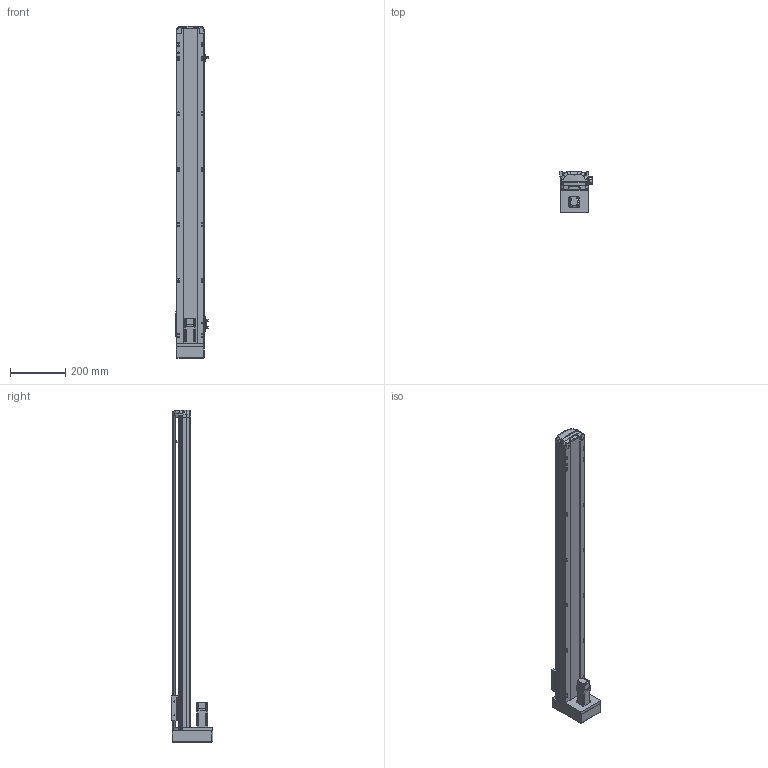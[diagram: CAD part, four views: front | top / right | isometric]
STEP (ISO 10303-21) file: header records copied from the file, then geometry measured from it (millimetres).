
FILE_DESCRIPTION (( 'STEP AP214' ), '1' );
FILE_NAME ('RTH10-XX-950-M-M10-C4.STEP', '2025-10-25T05:48:22', ( 'Microsoft' ), ( 'Microsoft' ), 'SwSTEP 2.0', 'SolidWorks 2018', '' );
FILE_SCHEMA (( 'AUTOMOTIVE_DESIGN' ));
Length unit declared in the file: millimetre
Products named in the file (10): N_RTH12-M-007P-奻裔^RTH10-XX-100-M-M10-C4; N_RTH12-M-018-裔赽^RTH10-XX-100-M-M10-C4; RTH10-XX-950-M-M10-C4; N_RTH12-M-011P-臏倰第菁釱^RTH10-XX-100-M-M10-C4; N_RTH12-GY-001P^RTH10-XX-100-M-M10-C4; N_RTH12-M-008-萇儂啣^RTH10-XX-100-M-M10-C4; N_P10^RTH10-XX-100-M-M10-C4; N_RTH13-L-012覜茼え俋离^RTH10-XX-100-M-M10-C4; N_RTH12-GY-004-賑釱^RTH10-XX-100-M-M10-C4; N_OMRON EE-SX672 传感器^RTH10-XX-100-M-M10-C4
Assembly tree (11 placements, depth 2):
  RTH10-XX-950-M-M10-C4
    N_RTH12-M-011P-臏倰第菁釱^RTH10-XX-100-M-M10-C4
    N_RTH13-L-012覜茼え俋离^RTH10-XX-100-M-M10-C4
    N_OMRON EE-SX672 传感器^RTH10-XX-100-M-M10-C4  x3
    N_P10^RTH10-XX-100-M-M10-C4
    N_RTH12-M-007P-奻裔^RTH10-XX-100-M-M10-C4
    N_RTH12-M-008-萇儂啣^RTH10-XX-100-M-M10-C4
    N_RTH12-M-018-裔赽^RTH10-XX-100-M-M10-C4
    N_RTH12-GY-004-賑釱^RTH10-XX-100-M-M10-C4
    N_RTH12-GY-001P^RTH10-XX-100-M-M10-C4
Bounding box: 116.5 x 149 x 1197.31 mm (x, y, z)
Volume: 5224602.4 mm3; surface area: 781747.5 mm2
Topology: 10 solids, 12 shells, 1973 faces, 5527 edges, 3627 vertices
Faces by surface type: plane 963, cylinder 503, bspline 472, cone 29, sphere 4, torus 2
Entity records: 59831 total; most frequent: CARTESIAN_POINT 23607, ORIENTED_EDGE 8126, DIRECTION 6285, EDGE_CURVE 4069, VERTEX_POINT 2671, LINE 2123, VECTOR 2123, AXIS2_PLACEMENT_3D 2081
